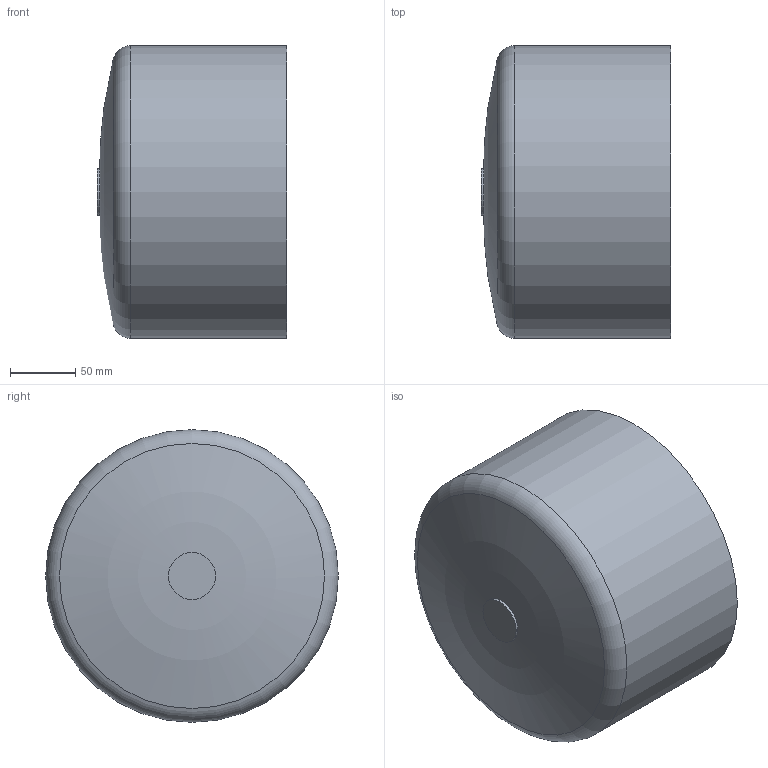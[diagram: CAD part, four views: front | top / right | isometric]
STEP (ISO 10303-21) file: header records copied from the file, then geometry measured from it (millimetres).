
FILE_DESCRIPTION(/* description */ ('Unknown'),/* implementation_level */ '2;1');
FILE_NAME(/* name */ 'CAP225G',/* time_stamp */ '2022-04-02T10:38:29+02:00',/* author */ ('Unknown'),/* organization */ ('Unknown'),/* preprocessor_version */ 'ST-DEVELOPER v18.1',/* originating_system */ 'Solid Edge',/* authorisation */ 'Unknown');
FILE_SCHEMA (('AUTOMOTIVE_DESIGN {1 0 10303 214 3 1 1}'));
Length unit declared in the file: millimetre
Products named in the file (1): CAP225G
Bounding box: 146 x 225 x 225 mm (x, y, z)
Volume: 3064658.2 mm3; surface area: 223002.5 mm2
Topology: 1 solids, 1 shells, 12 faces, 20 edges, 11 vertices
Faces by surface type: cylinder 4, torus 4, plane 3, cone 1
Full cylindrical faces by diameter (mm): 36 x1, 163.4 x1, 171.42 x1, 225 x1
Entity records: 264 total; most frequent: DIRECTION 48, CARTESIAN_POINT 35, AXIS2_PLACEMENT_3D 24, ORIENTED_EDGE 22, EDGE_LOOP 22, FACE_BOUND 22, ADVANCED_FACE 12, EDGE_CURVE 11
